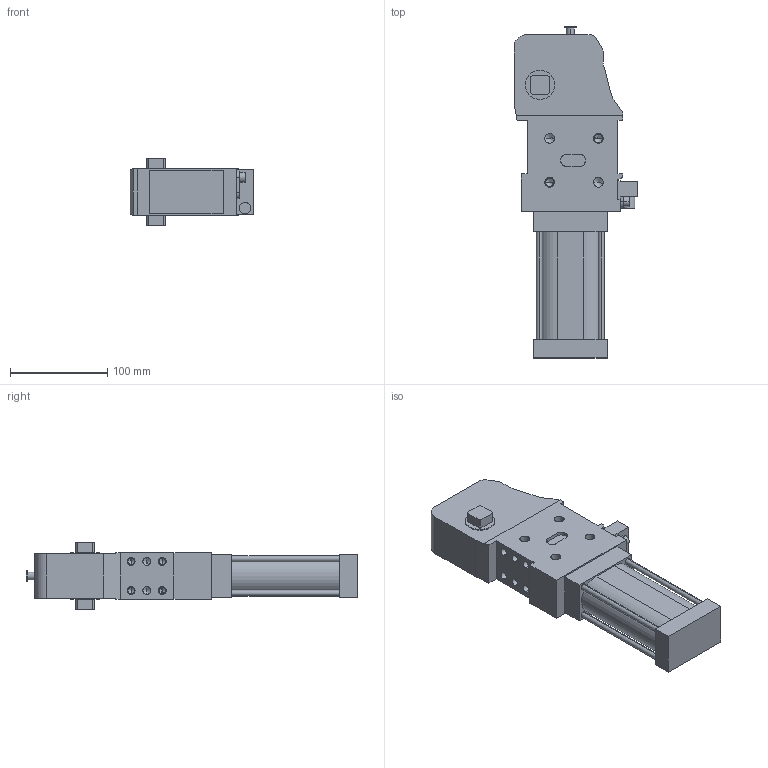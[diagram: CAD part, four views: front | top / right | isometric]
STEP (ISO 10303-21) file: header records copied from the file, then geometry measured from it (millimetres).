
FILE_DESCRIPTION (( 'STEP AP214' ), '1' );
FILE_NAME ('cpl50xxxi1g_135.STEP', '2023-01-26T08:41:13', ( '' ), ( '' ), 'SwSTEP 2.0', 'SolidWorks 2022', '' );
FILE_SCHEMA (( 'AUTOMOTIVE_DESIGN' ));
Length unit declared in the file: millimetre
Products named in the file (4): cpl50xxxi1g_135; manovella_cpl_50; meccanica_cpl_50; blocchetto_VEP_0
Assembly tree (3 placements, depth 2):
  cpl50xxxi1g_135
    meccanica_cpl_50
    blocchetto_VEP_0
    manovella_cpl_50
Bounding box: 127 x 341 x 69 mm (x, y, z)
Volume: 1254919.1 mm3; surface area: 127810.5 mm2
Topology: 3 solids, 3 shells, 303 faces, 755 edges, 463 vertices
Faces by surface type: plane 129, cylinder 124, cone 50
Entity records: 10135 total; most frequent: DIRECTION 1581, CARTESIAN_POINT 1481, ORIENTED_EDGE 1418, EDGE_CURVE 709, AXIS2_PLACEMENT_3D 563, VERTEX_POINT 463, LINE 455, VECTOR 455
